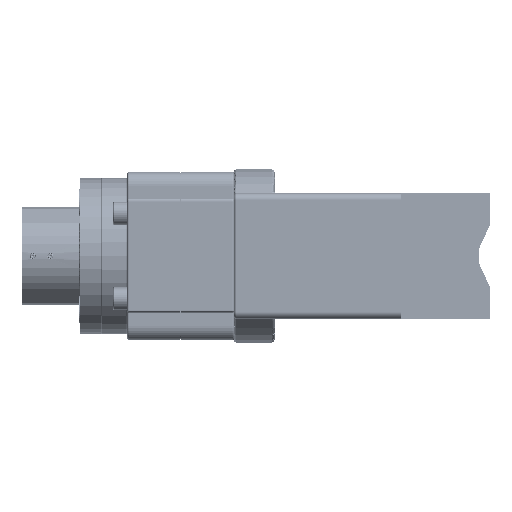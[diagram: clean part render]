
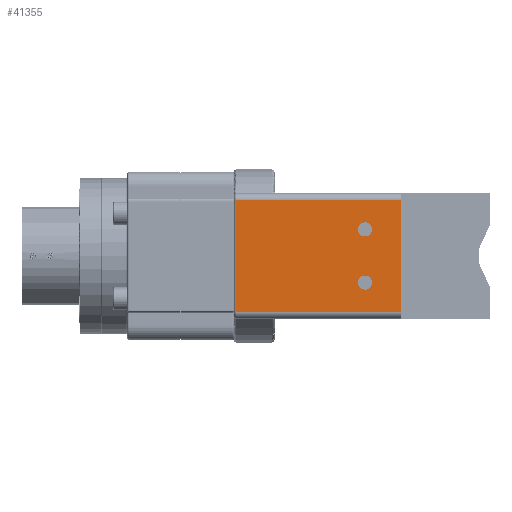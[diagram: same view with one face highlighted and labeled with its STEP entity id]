
A CAD part, left-side view. The second image highlights one B-rep face of the part: STEP entity #41355.
In plain terms, the highlighted planar face has unit normal (-1, 0, 0).
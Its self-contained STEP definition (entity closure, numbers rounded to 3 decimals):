
#593 = EDGE_CURVE ( 'NONE', #155215, #31930, #80063, .T. ) ;
#2318 = CARTESIAN_POINT ( 'NONE',  ( -198.91, 66.5, -15. ) ) ;
#2844 = VERTEX_POINT ( 'NONE', #211948 ) ;
#3644 = CIRCLE ( 'NONE', #163461, 4. ) ;
#5228 = VERTEX_POINT ( 'NONE', #111138 ) ;
#10095 = CARTESIAN_POINT ( 'NONE',  ( -198.91, 70.5, -15. ) ) ;
#13022 = VECTOR ( 'NONE', #269307, 1000. ) ;
#20412 = LINE ( 'NONE', #240702, #237527 ) ;
#20415 = EDGE_LOOP ( 'NONE', ( #178811, #150935, #99013, #113323 ) ) ;
#21064 = EDGE_CURVE ( 'NONE', #263759, #155215, #139072, .T. ) ;
#24324 = CARTESIAN_POINT ( 'NONE',  ( -198.91, 74.5, -15. ) ) ;
#25151 = CIRCLE ( 'NONE', #84537, 4. ) ;
#31589 = VECTOR ( 'NONE', #161471, 1000. ) ;
#31883 = EDGE_CURVE ( 'NONE', #253943, #256111, #25151, .T. ) ;
#31930 = VERTEX_POINT ( 'NONE', #245194 ) ;
#41355 = ADVANCED_FACE ( 'NONE', ( #118060, #265537, #246867 ), #202521, .F. ) ;
#48547 = EDGE_CURVE ( 'NONE', #5228, #263759, #20412, .T. ) ;
#54163 = LINE ( 'NONE', #122812, #31589 ) ;
#57244 = DIRECTION ( 'NONE',  ( 0., 1., 0. ) ) ;
#58655 = CARTESIAN_POINT ( 'NONE',  ( -198.91, 70.5, -15. ) ) ;
#70185 = CARTESIAN_POINT ( 'NONE',  ( -198.91, 70.5, 15. ) ) ;
#78618 = ORIENTED_EDGE ( 'NONE', *, *, #209539, .F. ) ;
#80063 = LINE ( 'NONE', #167293, #85440 ) ;
#84537 = AXIS2_PLACEMENT_3D ( 'NONE', #58655, #276205, #57244 ) ;
#85440 = VECTOR ( 'NONE', #144433, 1000. ) ;
#87459 = DIRECTION ( 'NONE',  ( -1., 0., 0. ) ) ;
#93273 = AXIS2_PLACEMENT_3D ( 'NONE', #199655, #93783, #244064 ) ;
#93783 = DIRECTION ( 'NONE',  ( 1., 0., 0. ) ) ;
#97584 = ORIENTED_EDGE ( 'NONE', *, *, #229045, .F. ) ;
#99013 = ORIENTED_EDGE ( 'NONE', *, *, #151329, .T. ) ;
#107663 = DIRECTION ( 'NONE',  ( 0., 0., 1. ) ) ;
#111138 = CARTESIAN_POINT ( 'NONE',  ( -198.91, 50., -31.5 ) ) ;
#113323 = ORIENTED_EDGE ( 'NONE', *, *, #48547, .T. ) ;
#114610 = DIRECTION ( 'NONE',  ( -1., 0., 0. ) ) ;
#118060 = FACE_BOUND ( 'NONE', #197782, .T. ) ;
#120307 = EDGE_CURVE ( 'NONE', #2844, #169839, #135004, .T. ) ;
#122812 = CARTESIAN_POINT ( 'NONE',  ( -198.91, 50., -31.5 ) ) ;
#125935 = CARTESIAN_POINT ( 'NONE',  ( -198.91, 66.5, 15. ) ) ;
#128962 = DIRECTION ( 'NONE',  ( 0., 1., 0. ) ) ;
#134602 = DIRECTION ( 'NONE',  ( -1., 0., 0. ) ) ;
#135004 = CIRCLE ( 'NONE', #253872, 4. ) ;
#139072 = LINE ( 'NONE', #270724, #13022 ) ;
#144433 = DIRECTION ( 'NONE',  ( 0., 0., -1. ) ) ;
#150935 = ORIENTED_EDGE ( 'NONE', *, *, #593, .T. ) ;
#151329 = EDGE_CURVE ( 'NONE', #31930, #5228, #54163, .T. ) ;
#153254 = CARTESIAN_POINT ( 'NONE',  ( -198.91, 70.5, 15. ) ) ;
#155215 = VERTEX_POINT ( 'NONE', #281416 ) ;
#161471 = DIRECTION ( 'NONE',  ( 0., -1., 0. ) ) ;
#161938 = CIRCLE ( 'NONE', #203068, 4. ) ;
#163461 = AXIS2_PLACEMENT_3D ( 'NONE', #10095, #114610, #201836 ) ;
#167293 = CARTESIAN_POINT ( 'NONE',  ( -198.91, 143.07, -31.5 ) ) ;
#169839 = VERTEX_POINT ( 'NONE', #125935 ) ;
#178811 = ORIENTED_EDGE ( 'NONE', *, *, #21064, .T. ) ;
#187294 = ORIENTED_EDGE ( 'NONE', *, *, #120307, .F. ) ;
#196183 = DIRECTION ( 'NONE',  ( 0., 1., 0. ) ) ;
#197782 = EDGE_LOOP ( 'NONE', ( #187294, #97584 ) ) ;
#199655 = CARTESIAN_POINT ( 'NONE',  ( -198.91, 194.753, 35.5 ) ) ;
#201836 = DIRECTION ( 'NONE',  ( 0., 1., 0. ) ) ;
#202521 = PLANE ( 'NONE',  #93273 ) ;
#203068 = AXIS2_PLACEMENT_3D ( 'NONE', #70185, #134602, #128962 ) ;
#204341 = EDGE_LOOP ( 'NONE', ( #78618, #242898 ) ) ;
#209539 = EDGE_CURVE ( 'NONE', #256111, #253943, #3644, .T. ) ;
#211948 = CARTESIAN_POINT ( 'NONE',  ( -198.91, 74.5, 15. ) ) ;
#229045 = EDGE_CURVE ( 'NONE', #169839, #2844, #161938, .T. ) ;
#237527 = VECTOR ( 'NONE', #107663, 1000. ) ;
#240702 = CARTESIAN_POINT ( 'NONE',  ( -198.91, 50., 35.5 ) ) ;
#242898 = ORIENTED_EDGE ( 'NONE', *, *, #31883, .F. ) ;
#244064 = DIRECTION ( 'NONE',  ( 0., -1., 0. ) ) ;
#245194 = CARTESIAN_POINT ( 'NONE',  ( -198.91, 143.07, -31.5 ) ) ;
#246867 = FACE_OUTER_BOUND ( 'NONE', #20415, .T. ) ;
#251639 = CARTESIAN_POINT ( 'NONE',  ( -198.91, 50., 31.5 ) ) ;
#253872 = AXIS2_PLACEMENT_3D ( 'NONE', #153254, #87459, #196183 ) ;
#253943 = VERTEX_POINT ( 'NONE', #2318 ) ;
#256111 = VERTEX_POINT ( 'NONE', #24324 ) ;
#263759 = VERTEX_POINT ( 'NONE', #251639 ) ;
#265537 = FACE_BOUND ( 'NONE', #204341, .T. ) ;
#269307 = DIRECTION ( 'NONE',  ( 0., 1., 0. ) ) ;
#270724 = CARTESIAN_POINT ( 'NONE',  ( -198.91, 144.57, 31.5 ) ) ;
#276205 = DIRECTION ( 'NONE',  ( -1., 0., 0. ) ) ;
#281416 = CARTESIAN_POINT ( 'NONE',  ( -198.91, 143.07, 31.5 ) ) ;
